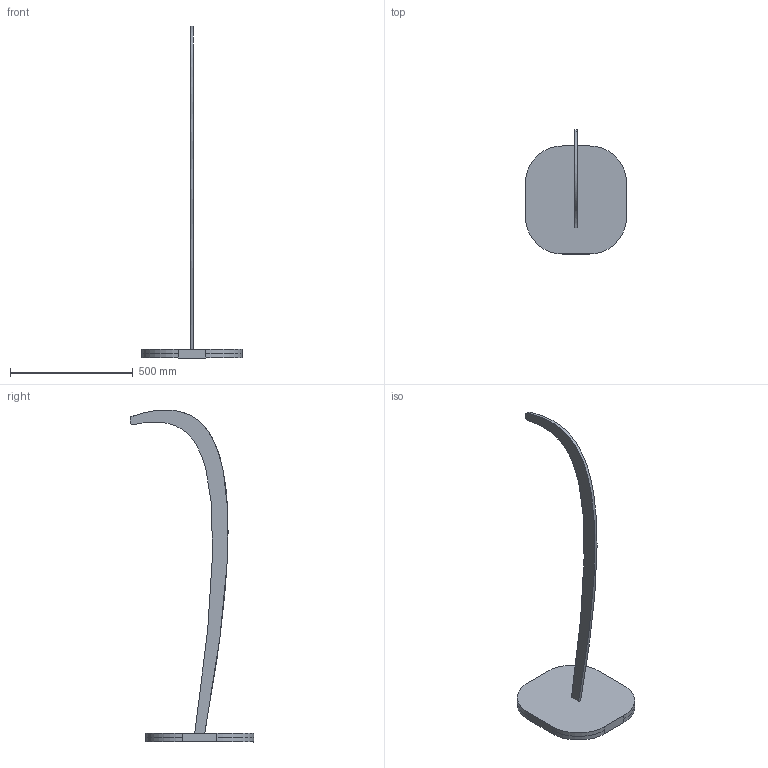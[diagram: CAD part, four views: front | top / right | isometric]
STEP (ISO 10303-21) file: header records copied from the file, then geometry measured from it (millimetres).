
FILE_DESCRIPTION(/* description */ (''),/* implementation_level */ '2;1');
FILE_NAME(/* name */ 'lamp_v1.step',/* time_stamp */ '2026-03-11T00:00:12+01:00',/* author */ (''),/* organization */ (''),/* preprocessor_version */ 'ST-DEVELOPER v20.1',/* originating_system */ 'Autodesk Translation Framework v14.24.0.0',/* authorisation */ '');
FILE_SCHEMA (('AUTOMOTIVE_DESIGN { 1 0 10303 214 3 1 1 }'));
Length unit declared in the file: millimetre
Products named in the file (1): lamp__V2_a
Bounding box: 412 x 503.79 x 1354.76 mm (x, y, z)
Volume: 6894897.3 mm3; surface area: 595851.3 mm2
Topology: 2 solids, 2 shells, 30 faces, 75 edges, 50 vertices
Faces by surface type: plane 18, cylinder 10, bspline 2
Entity records: 1021 total; most frequent: CARTESIAN_POINT 270, ORIENTED_EDGE 150, DIRECTION 145, EDGE_CURVE 75, LINE 55, VECTOR 55, VERTEX_POINT 50, AXIS2_PLACEMENT_3D 45
